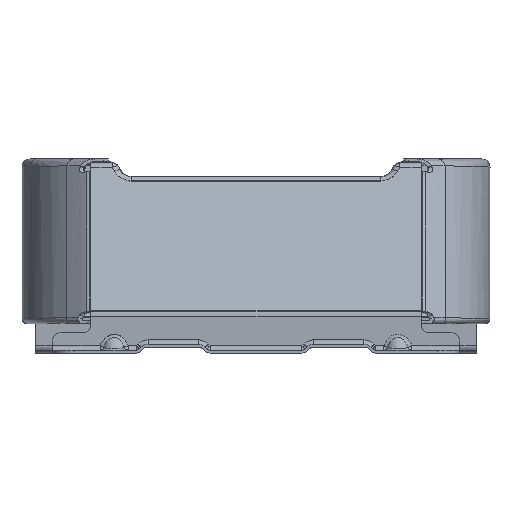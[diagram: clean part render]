
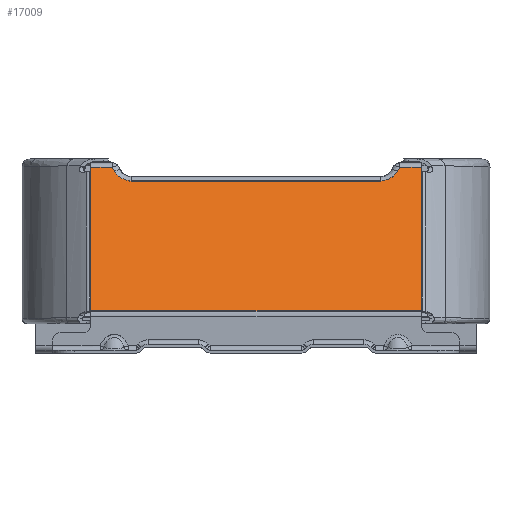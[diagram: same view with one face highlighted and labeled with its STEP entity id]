
A CAD part, left-side view. The second image highlights one B-rep face of the part: STEP entity #17009.
In plain terms, the highlighted planar face has unit normal (-0.906, 0, 0.422).
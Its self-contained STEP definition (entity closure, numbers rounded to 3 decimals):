
#16976=AXIS2_PLACEMENT_3D('Plane Axis2P3D',#16973,#16974,#16975) ;
#12357=CARTESIAN_POINT('Line Origine',(1078.653,-584.979,147.112)) ;
#12361=CARTESIAN_POINT('Vertex',(1078.653,-486.73,147.112)) ;
#12363=CARTESIAN_POINT('Vertex',(1078.653,-471.979,147.112)) ;
#12521=CARTESIAN_POINT('Vertex',(1078.653,-683.242,147.112)) ;
#12524=CARTESIAN_POINT('Line Origine',(1078.653,-584.979,147.112)) ;
#12528=CARTESIAN_POINT('Vertex',(1078.653,-697.979,147.112)) ;
#12606=CARTESIAN_POINT('Vertex',(1077.348,-681.626,144.312)) ;
#12609=CARTESIAN_POINT('Line Origine',(1056.024,-655.207,98.554)) ;
#12725=CARTESIAN_POINT('Vertex',(1074.319,-670.367,137.812)) ;
#12729=CARTESIAN_POINT('Control Point',(1077.348,-681.626,144.312)) ;
#12730=CARTESIAN_POINT('Control Point',(1076.893,-681.061,143.335)) ;
#12731=CARTESIAN_POINT('Control Point',(1076.461,-680.384,142.407)) ;
#12732=CARTESIAN_POINT('Control Point',(1076.058,-679.596,141.544)) ;
#12733=CARTESIAN_POINT('Control Point',(1075.351,-677.856,140.027)) ;
#12734=CARTESIAN_POINT('Control Point',(1074.826,-675.764,138.9)) ;
#12735=CARTESIAN_POINT('Control Point',(1074.622,-674.674,138.461)) ;
#12736=CARTESIAN_POINT('Control Point',(1074.426,-673.145,138.041)) ;
#12737=CARTESIAN_POINT('Control Point',(1074.341,-671.568,137.858)) ;
#12738=CARTESIAN_POINT('Control Point',(1074.327,-671.168,137.828)) ;
#12739=CARTESIAN_POINT('Control Point',(1074.319,-670.768,137.812)) ;
#12740=CARTESIAN_POINT('Control Point',(1074.319,-670.367,137.812)) ;
#12765=CARTESIAN_POINT('Vertex',(1074.319,-499.605,137.812)) ;
#12768=CARTESIAN_POINT('Line Origine',(1074.319,-584.979,137.812)) ;
#12885=CARTESIAN_POINT('Vertex',(1077.348,-488.346,144.312)) ;
#12889=CARTESIAN_POINT('Control Point',(1074.319,-499.605,137.812)) ;
#12890=CARTESIAN_POINT('Control Point',(1074.319,-498.446,137.812)) ;
#12891=CARTESIAN_POINT('Control Point',(1074.379,-497.288,137.941)) ;
#12892=CARTESIAN_POINT('Control Point',(1074.5,-496.156,138.199)) ;
#12893=CARTESIAN_POINT('Control Point',(1074.858,-493.943,138.969)) ;
#12894=CARTESIAN_POINT('Control Point',(1075.42,-492.,140.173)) ;
#12895=CARTESIAN_POINT('Control Point',(1075.752,-491.097,140.885)) ;
#12896=CARTESIAN_POINT('Control Point',(1076.266,-489.97,141.99)) ;
#12897=CARTESIAN_POINT('Control Point',(1076.838,-489.041,143.217)) ;
#12898=CARTESIAN_POINT('Control Point',(1077.005,-488.793,143.574)) ;
#12899=CARTESIAN_POINT('Control Point',(1077.175,-488.562,143.94)) ;
#12900=CARTESIAN_POINT('Control Point',(1077.348,-488.346,144.312)) ;
#12926=CARTESIAN_POINT('Line Origine',(1056.024,-514.765,98.554)) ;
#16973=CARTESIAN_POINT('Axis2P3D Location',(1031.999,-584.979,47.)) ;
#16978=CARTESIAN_POINT('Line Origine',(1055.794,-697.979,98.06)) ;
#16982=CARTESIAN_POINT('Vertex',(1032.935,-697.979,49.008)) ;
#16985=CARTESIAN_POINT('Line Origine',(1055.794,-471.979,98.06)) ;
#16989=CARTESIAN_POINT('Vertex',(1032.935,-471.979,49.008)) ;
#16992=CARTESIAN_POINT('Line Origine',(1032.935,-584.979,49.008)) ;
#12358=DIRECTION('Vector Direction',(0.,1.,0.)) ;
#12525=DIRECTION('Vector Direction',(0.,1.,0.)) ;
#12610=DIRECTION('Vector Direction',(-0.374,0.464,-0.803)) ;
#12769=DIRECTION('Vector Direction',(0.,1.,0.)) ;
#12927=DIRECTION('Vector Direction',(0.374,0.464,0.803)) ;
#16974=DIRECTION('Axis2P3D Direction',(-0.906,0.,0.422)) ;
#16975=DIRECTION('Axis2P3D XDirection',(0.422,0.,0.906)) ;
#16979=DIRECTION('Vector Direction',(0.422,0.,0.906)) ;
#16986=DIRECTION('Vector Direction',(0.422,0.,0.906)) ;
#16993=DIRECTION('Vector Direction',(0.,1.,0.)) ;
#12359=VECTOR('Line Direction',#12358,1.) ;
#12526=VECTOR('Line Direction',#12525,1.) ;
#12611=VECTOR('Line Direction',#12610,1.) ;
#12770=VECTOR('Line Direction',#12769,1.) ;
#12928=VECTOR('Line Direction',#12927,1.) ;
#16980=VECTOR('Line Direction',#16979,1.) ;
#16987=VECTOR('Line Direction',#16986,1.) ;
#16994=VECTOR('Line Direction',#16993,1.) ;
#16998=ORIENTED_EDGE('',*,*,#16984,.T.) ;
#16999=ORIENTED_EDGE('',*,*,#12530,.T.) ;
#17000=ORIENTED_EDGE('',*,*,#12613,.T.) ;
#17001=ORIENTED_EDGE('',*,*,#12741,.T.) ;
#17002=ORIENTED_EDGE('',*,*,#12772,.T.) ;
#17003=ORIENTED_EDGE('',*,*,#12901,.T.) ;
#17004=ORIENTED_EDGE('',*,*,#12930,.T.) ;
#17005=ORIENTED_EDGE('',*,*,#12365,.T.) ;
#17006=ORIENTED_EDGE('',*,*,#16991,.F.) ;
#17007=ORIENTED_EDGE('',*,*,#16996,.F.) ;
#17009=ADVANCED_FACE('\X2\51E04F554F53\X0\.19',(#17008),#16977,.T.) ;
#12728=B_SPLINE_CURVE_WITH_KNOTS('',5,(#12729,#12730,#12731,#12732,#12733,#12734,#12735,#12736,#12737,#12738,#12739,#12740),.UNSPECIFIED.,.F.,.U.,(6,3,3,6),(42.934,50.3,57.279,59.631),.UNSPECIFIED.) ;
#12888=B_SPLINE_CURVE_WITH_KNOTS('',5,(#12889,#12890,#12891,#12892,#12893,#12894,#12895,#12896,#12897,#12898,#12899,#12900),.UNSPECIFIED.,.F.,.U.,(6,3,3,6),(43.43,50.231,57.32,60.127),.UNSPECIFIED.) ;
#12365=EDGE_CURVE('',#12362,#12364,#12360,.T.) ;
#12530=EDGE_CURVE('',#12529,#12522,#12527,.T.) ;
#12613=EDGE_CURVE('',#12522,#12607,#12612,.T.) ;
#12741=EDGE_CURVE('',#12607,#12726,#12728,.T.) ;
#12772=EDGE_CURVE('',#12726,#12766,#12771,.T.) ;
#12901=EDGE_CURVE('',#12766,#12886,#12888,.T.) ;
#12930=EDGE_CURVE('',#12886,#12362,#12929,.T.) ;
#16984=EDGE_CURVE('',#16983,#12529,#16981,.T.) ;
#16991=EDGE_CURVE('',#16990,#12364,#16988,.T.) ;
#16996=EDGE_CURVE('',#16983,#16990,#16995,.T.) ;
#16997=EDGE_LOOP('',(#16998,#16999,#17000,#17001,#17002,#17003,#17004,#17005,#17006,#17007)) ;
#17008=FACE_OUTER_BOUND('',#16997,.T.) ;
#12360=LINE('Line',#12357,#12359) ;
#12527=LINE('Line',#12524,#12526) ;
#12612=LINE('Line',#12609,#12611) ;
#12771=LINE('Line',#12768,#12770) ;
#12929=LINE('Line',#12926,#12928) ;
#16981=LINE('Line',#16978,#16980) ;
#16988=LINE('Line',#16985,#16987) ;
#16995=LINE('Line',#16992,#16994) ;
#16977=PLANE('Plane',#16976) ;
#12362=VERTEX_POINT('',#12361) ;
#12364=VERTEX_POINT('',#12363) ;
#12522=VERTEX_POINT('',#12521) ;
#12529=VERTEX_POINT('',#12528) ;
#12607=VERTEX_POINT('',#12606) ;
#12726=VERTEX_POINT('',#12725) ;
#12766=VERTEX_POINT('',#12765) ;
#12886=VERTEX_POINT('',#12885) ;
#16983=VERTEX_POINT('',#16982) ;
#16990=VERTEX_POINT('',#16989) ;
